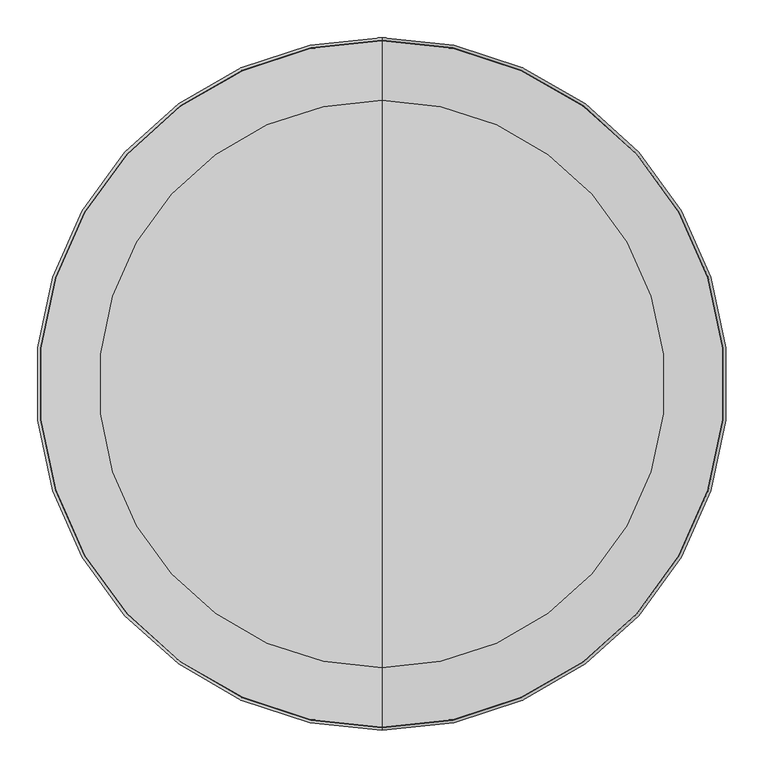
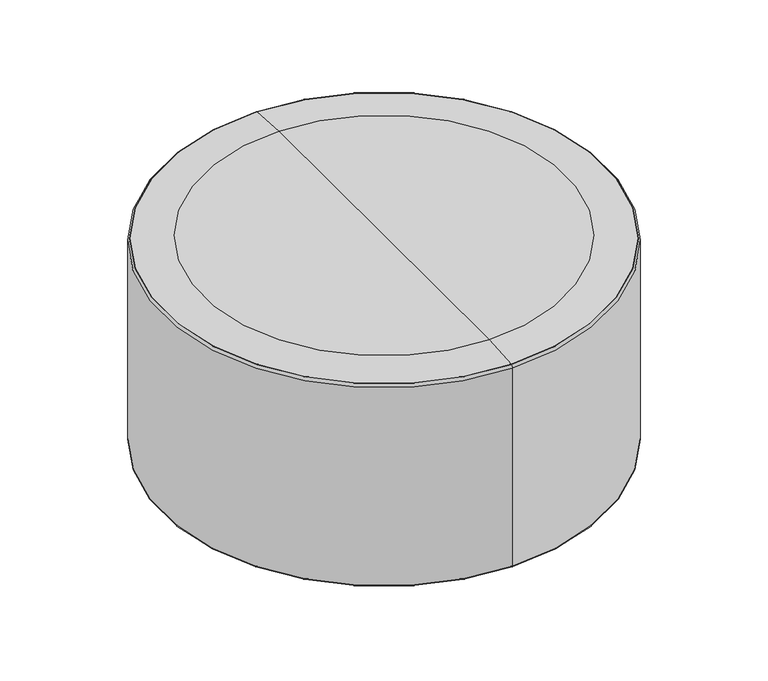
"""IFC4 building model written with IfcOpenShell, lengths in millimetres: furniture geometry, Indiana-Otty-Ottoman_Round : 840-3618RO."""

import ifcopenshell
import ifcopenshell.guid

model = None  # the IFC model being written
_history = None  # IfcOwnerHistory: only IFC2X3 demands one
_inside = {}  # id of a spatial element -> (the spatial element, [elements in it])
_under = {}  # id of a project, library or spatial element -> (it, [spatial elements below it])
_declared = {}  # id of a project -> (the project, [libraries it declares])
_typed = {}  # id of a type object -> (the type object, [elements of that type])
_made_of = {}  # id of a material, layer set ... -> (it, [elements and type objects made of it])


def new_model(schema):
    """Start an empty IFC model of exactly this schema.

    Asked for "IFC4X3", IfcOpenShell would pick the latest addendum, in which some entities
    have other attributes; the version numbers below select the first issue.
    IFC2X3 requires an IfcOwnerHistory on every rooted entity: one is made here for all.
    """
    global model, _history
    if schema == "IFC4X3":
        model = ifcopenshell.file(schema_version=(4, 3, 0, 0))
    else:
        model = ifcopenshell.file(schema=schema)
    _inside.clear()
    _under.clear()
    _declared.clear()
    _typed.clear()
    _made_of.clear()
    _history = None
    if model.schema == "IFC2X3":
        org = make("IfcOrganization", Name="unknown")
        user = make(
            "IfcPersonAndOrganization",
            ThePerson=make("IfcPerson", FamilyName="unknown"),
            TheOrganization=org,
        )
        app = make(
            "IfcApplication",
            ApplicationDeveloper=org,
            Version="unknown",
            ApplicationFullName="unknown",
            ApplicationIdentifier="unknown",
        )
        _history = make(
            "IfcOwnerHistory",
            OwningUser=user,
            OwningApplication=app,
            ChangeAction="ADDED",
            CreationDate=0,
        )
    return model


def make(cls, **values):
    """One entity of the class cls with the attributes given. An attribute that is None is left unset."""
    return model.create_entity(
        cls, **{name: value for name, value in values.items() if value is not None}
    )


def rooted(cls, **values):
    """An entity with a GlobalId (a new one), such as an element, a storey or a relation."""
    return make(cls, GlobalId=ifcopenshell.guid.new(), OwnerHistory=_history, **values)


def si_unit(unit_type, name, prefix=None):
    """IfcSIUnit, for example si_unit("LENGTHUNIT", "METRE", prefix="MILLI")."""
    return make("IfcSIUnit", UnitType=unit_type, Prefix=prefix, Name=name)


def assignment(units):
    """IfcUnitAssignment: the units of a project."""
    return None if units is None else make("IfcUnitAssignment", Units=units)


def point(xyz):
    """IfcCartesianPoint."""
    return None if xyz is None else make("IfcCartesianPoint", Coordinates=xyz)


def direction(xyz):
    """IfcDirection."""
    return None if xyz is None else make("IfcDirection", DirectionRatios=xyz)


def frame(location, z_axis=None, x_axis=None):
    """IfcAxis2Placement3D, a coordinate frame: its origin and axes. An axis left out is left unset."""
    return make(
        "IfcAxis2Placement3D",
        Location=point(location),
        Axis=direction(z_axis),
        RefDirection=direction(x_axis),
    )


def origin():
    """The frame at (0, 0, 0) with its axes left unset."""
    return frame((0.0, 0.0, 0.0))


def place(relative_to, where):
    """IfcLocalPlacement: puts the frame where relative to a parent placement (None: the world)."""
    return make(
        "IfcLocalPlacement", PlacementRelTo=relative_to, RelativePlacement=where
    )


def context(
    kind, dimensions, precision=None, world=None, true_north=None, identifier=None
):
    """IfcGeometricRepresentationContext, for example the 3D "Model" context."""
    return make(
        "IfcGeometricRepresentationContext",
        ContextIdentifier=identifier,
        ContextType=kind,
        CoordinateSpaceDimension=dimensions,
        Precision=precision,
        WorldCoordinateSystem=world,
        TrueNorth=true_north,
    )


def project(units=None, contexts=None):
    """IfcProject with its units and contexts."""
    return rooted(
        "IfcProject",
        Name="project",
        RepresentationContexts=contexts,
        UnitsInContext=assignment(units),
    )


def spatial(cls, under=None, at=None, **own):
    """A site, building, storey or space (cls), placed at a placement, below another one or the project."""
    s = rooted(cls, ObjectPlacement=at, **own)
    if under is not None:
        _under.setdefault(under.id(), (under, []))[1].append(s)
    return s


def polyline(points):
    """IfcPolyline through the points."""
    return make("IfcPolyline", Points=[point(p) for p in points])


def circle_curve(where, radius):
    """IfcCircle in the frame where."""
    return make("IfcCircle", Position=where, Radius=radius)


def ellipse_curve(where, semi_axis1, semi_axis2):
    """IfcEllipse in the frame where."""
    return make(
        "IfcEllipse", Position=where, SemiAxis1=semi_axis1, SemiAxis2=semi_axis2
    )


def trimmed(basis, trim1, trim2, sense, master):
    """IfcTrimmedCurve: the piece of a basis curve between two trims."""
    return make(
        "IfcTrimmedCurve",
        BasisCurve=basis,
        Trim1=trim1,
        Trim2=trim2,
        SenseAgreement=sense,
        MasterRepresentation=master,
    )


def shape(context_of_items, identifier, shape_type, items):
    """IfcShapeRepresentation: the items that make up one representation, for example the "Body"."""
    return make(
        "IfcShapeRepresentation",
        ContextOfItems=context_of_items,
        RepresentationIdentifier=identifier,
        RepresentationType=shape_type,
        Items=items,
    )


def source(mapping_origin, context_of_items, identifier, shape_type, items):
    """IfcRepresentationMap: a shape defined once, which mapped items show again and again."""
    return make(
        "IfcRepresentationMap",
        MappingOrigin=mapping_origin,
        MappedRepresentation=shape(context_of_items, identifier, shape_type, items),
    )


def transform(
    local_origin,
    x_axis=None,
    y_axis=None,
    z_axis=None,
    scale=None,
    scale2=None,
    scale3=None,
    uniform=True,
):
    """IfcCartesianTransformationOperator3D, or its non-uniform kind. x_axis, y_axis, z_axis: its Axis1, 2, 3."""
    if uniform:
        return make(
            "IfcCartesianTransformationOperator3D",
            Axis1=direction(x_axis),
            Axis2=direction(y_axis),
            LocalOrigin=point(local_origin),
            Scale=scale,
            Axis3=direction(z_axis),
        )
    return make(
        "IfcCartesianTransformationOperator3DnonUniform",
        Axis1=direction(x_axis),
        Axis2=direction(y_axis),
        LocalOrigin=point(local_origin),
        Scale=scale,
        Axis3=direction(z_axis),
        Scale2=scale2,
        Scale3=scale3,
    )


def mapped(mapping_source, mapping_target):
    """IfcMappedItem: shows the shape of a source again, moved by a transform."""
    return make(
        "IfcMappedItem", MappingSource=mapping_source, MappingTarget=mapping_target
    )


def made_of(thing, what):
    """Note that an element or type object is made of a material, layer set ...; save() writes the relation."""
    if what is not None:
        _made_of.setdefault(what.id(), (what, []))[1].append(thing)
    return thing


def element(
    cls,
    number,
    at=None,
    inside=None,
    cuts=None,
    type_object=None,
    material=None,
    context=None,
    identifier="Body",
    shape_type=None,
    held_by="IfcProductDefinitionShape",
    body=None,
    shapes=None,
    **own,
):
    """One element of the class cls, such as IfcWall. Its Tag is "e" and its number.

    at: its placement. inside: the storey or other place that contains it. cuts: it is an
    opening in that element (IfcRelVoidsElement). A single representation is given by context,
    identifier, shape_type and body (its items); several are given by shapes. held_by: the class
    of the entity that holds the representations. save() writes the other relations.
    """
    e = rooted(cls, Tag="e%d" % number, ObjectPlacement=at, **own)
    if body is not None:
        shapes = [shape(context, identifier, shape_type, body)]
    if shapes is not None:
        e.Representation = make(held_by, Representations=shapes)
    if inside is not None:
        _inside.setdefault(inside.id(), (inside, []))[1].append(e)
    if cuts is not None:
        rooted(
            "IfcRelVoidsElement", RelatingBuildingElement=cuts, RelatedOpeningElement=e
        )
    if type_object is not None:
        _typed.setdefault(type_object.id(), (type_object, []))[1].append(e)
    return made_of(e, material)


def aggregate(whole, parts):
    """IfcRelAggregates: a whole, such as a stair, and the parts it consists of."""
    return rooted("IfcRelAggregates", RelatingObject=whole, RelatedObjects=parts)


def save(model, path):
    """Write the relations noted so far, then the file.

    IfcRelAggregates (storeys below a building ...), IfcRelContainedInSpatialStructure (elements
    in a storey), IfcRelDefinesByType, IfcRelAssociatesMaterial and IfcRelDeclares: one each for
    every whole, place, type object, material and project.
    """
    for whole, parts in _under.values():
        aggregate(whole, parts)
    for where, things in _inside.values():
        rooted(
            "IfcRelContainedInSpatialStructure",
            RelatedElements=things,
            RelatingStructure=where,
        )
    for kind, things in _typed.values():
        rooted("IfcRelDefinesByType", RelatedObjects=things, RelatingType=kind)
    for what, things in _made_of.values():
        rooted("IfcRelAssociatesMaterial", RelatedObjects=things, RelatingMaterial=what)
    for by, libraries in _declared.values():
        rooted("IfcRelDeclares", RelatingContext=by, RelatedDefinitions=libraries)
    model.write(path)


def plane_surface(at):
    """IfcPlane: the flat surface through the origin of the frame at, square to its z axis."""
    return make("IfcPlane", Position=at)


def cylinder_surface(at, radius):
    """IfcCylindricalSurface: all points at the distance radius from the z axis of the frame at."""
    return make("IfcCylindricalSurface", Position=at, Radius=radius)


def revolved_surface(curve, axis_point, axis_direction):
    """IfcSurfaceOfRevolution: the curve turned about the line through axis_point along axis_direction."""
    return make(
        "IfcSurfaceOfRevolution",
        SweptCurve=make("IfcArbitraryOpenProfileDef", ProfileType="CURVE", Curve=curve),
        AxisPosition=make("IfcAxis1Placement", Location=point(axis_point), Axis=direction(axis_direction)),
    )


def advanced_brep(points, edges, surfaces, faces):
    """IfcAdvancedBrep: a solid bounded by faces that lie on surfaces and meet in shared edges.

    An edge is (start, end): straight between two places in points (the first is 0);
    or (start, end, curve); or (start, end, curve, False) where it runs against its curve.
    A face is (place in surfaces, loops), or (place, loops, False) where it looks against
    its surface's normal. A loop lists edges by number (the first is 1), with a minus sign
    where the edge is run from its end to its start. The first loop is the outer one.
    """
    corners = [point(p) for p in points]
    vertices = [make("IfcVertexPoint", VertexGeometry=c) for c in corners]
    made = []
    for start, end, *more in edges:
        made.append(
            make(
                "IfcEdgeCurve",
                EdgeStart=vertices[start],
                EdgeEnd=vertices[end],
                EdgeGeometry=more[0] if more else make("IfcPolyline", Points=[corners[start], corners[end]]),
                SameSense=more[1] if len(more) > 1 else True,
            )
        )
    hull = []
    for where, loops, *sense in faces:
        bounds = []
        for j, loop in enumerate(loops):
            ring = [make("IfcOrientedEdge", EdgeElement=made[abs(k) - 1], Orientation=k > 0) for k in loop]
            bounds.append(
                make(
                    "IfcFaceOuterBound" if j == 0 else "IfcFaceBound",
                    Bound=make("IfcEdgeLoop", EdgeList=ring),
                    Orientation=True,
                )
            )
        hull.append(make("IfcAdvancedFace", Bounds=bounds, FaceSurface=surfaces[where], SameSense=sense[0] if sense else True))
    return make("IfcAdvancedBrep", Outer=make("IfcClosedShell", CfsFaces=hull))


def furniture_21317942(model_context):
    return source(origin(), model_context, "Body", "AdvancedBrep", [
        advanced_brep(
        [(374.4189295, 85.5904719, 19.8875), (354.9333579, 96.8404719, 19.8875), (393.9045011, 74.3404719, 19.8875), (355.3217632, 96.616226, 4.2458827), (393.5160958, 74.5647178, 4.2458827), (359.2060099, 94.3736551, -0.1125), (389.6318491, 76.8072887, -0.1125), (365.5269116, 90.7242808, -0.1125), (383.3109474, 80.456663, -0.1125), (368.8996269, 88.7770427, 3.9179615), (379.9382321, 82.4039011, 3.9179615), (374.4189295, 85.5904719, 3.9179615)],
        [
            (0, 1),
            (1, 2, circle_curve(frame((374.4189295, 85.5904719, 19.8875), z_axis=(0.0, 0.0, 1.0), x_axis=(-0.8660254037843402, 0.5000000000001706, 0.0)), 22.5)),
            (2, 0),
            (2, 1, circle_curve(frame((374.4189295, 85.5904719, 19.8875), z_axis=(0.0, 0.0, 1.0), x_axis=(-0.8660254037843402, 0.5000000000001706, 0.0)), 22.5)),
            (1, 3),
            (3, 4, circle_curve(frame((374.4189295, 85.5904719, 4.2458827), z_axis=(0.0, 0.0, 1.0), x_axis=(-0.8660254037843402, 0.5000000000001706, 0.0)), 22.0515082)),
            (4, 2),
            (4, 3, circle_curve(frame((374.4189295, 85.5904719, 4.2458827), z_axis=(0.0, 0.0, 1.0), x_axis=(-0.8660254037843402, 0.5000000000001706, 0.0)), 22.0515082)),
            (3, 5, circle_curve(frame((359.2060099, 94.3736551, 4.3744851), z_axis=(-0.5000000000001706, -0.8660254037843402, 0.0), x_axis=(0.8660254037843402, -0.5000000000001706, 0.0)), 4.4869851)),
            (5, 6, circle_curve(frame((374.4189295, 85.5904719, -0.1125), z_axis=(0.0, 0.0, 1.0), x_axis=(-0.8660254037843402, 0.5000000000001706, 0.0)), 17.5663665)),
            (6, 4, circle_curve(frame((389.6318491, 76.8072887, 4.3744851), z_axis=(-0.5000000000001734, -0.8660254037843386, 0.0), x_axis=(-0.8660254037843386, 0.5000000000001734, 0.0)), 4.4869851)),
            (6, 5, circle_curve(frame((374.4189295, 85.5904719, -0.1125), z_axis=(0.0, 0.0, 1.0), x_axis=(-0.8660254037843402, 0.5000000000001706, 0.0)), 17.5663665)),
            (5, 7),
            (7, 8, circle_curve(frame((374.4189295, 85.5904719, -0.1125), z_axis=(0.0, 0.0, 1.0), x_axis=(-0.8660254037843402, 0.5000000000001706, 0.0)), 10.2676178)),
            (8, 6),
            (8, 7, circle_curve(frame((374.4189295, 85.5904719, -0.1125), z_axis=(0.0, 0.0, 1.0), x_axis=(-0.8660254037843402, 0.5000000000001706, 0.0)), 10.2676178)),
            (7, 9, circle_curve(frame((365.5269116, 90.7242808, 3.7842702), z_axis=(-0.5000000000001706, -0.8660254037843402, 0.0), x_axis=(0.8660254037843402, -0.5000000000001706, 0.0)), 3.8967702)),
            (9, 10, circle_curve(frame((374.4189295, 85.5904719, 3.9179615), z_axis=(0.0, 0.0, 1.0), x_axis=(-0.8660254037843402, 0.5000000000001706, 0.0)), 6.3731417)),
            (10, 8, circle_curve(frame((383.3109474, 80.456663, 3.7842702), z_axis=(-0.5000000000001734, -0.8660254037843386, 0.0), x_axis=(-0.8660254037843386, 0.5000000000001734, 0.0)), 3.8967702)),
            (10, 9, circle_curve(frame((374.4189295, 85.5904719, 3.9179615), z_axis=(0.0, 0.0, 1.0), x_axis=(-0.8660254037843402, 0.5000000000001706, 0.0)), 6.3731417)),
            (9, 11),
            (11, 10),
        ],
        [
            plane_surface(frame((374.4189295, 85.5904719, 19.8875), z_axis=(0.0, 0.0, 1.0000000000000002), x_axis=(-0.8660254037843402, 0.5000000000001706, 0.0))),
            revolved_surface(polyline([(355.3217632, 96.616226, 4.2458827), (354.9333579, 96.8404719, 19.8875)]), (374.4189295, 85.5904719, 31.0803862), (0.0, 0.0, 1.0)),
            revolved_surface(trimmed(ellipse_curve(frame((359.2060099, 94.3736551, 4.3744851), z_axis=(0.5000000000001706, 0.8660254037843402, 0.0), x_axis=(0.8660254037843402, -0.5000000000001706, 0.0)), 4.4869851, 4.4869851), [point((359.2060099, 94.3736551, -0.1125))], [point((355.3217632, 96.616226, 4.2458827))], True, "CARTESIAN"), (374.4189295, 85.5904719, 31.0803862), (0.0, 0.0, 1.0)),
            plane_surface(frame((374.4189295, 85.5904719, -0.1125), z_axis=(0.0, 0.0, -1.0000000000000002), x_axis=(-0.8660254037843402, 0.5000000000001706, 0.0))),
            revolved_surface(trimmed(ellipse_curve(frame((365.5269116, 90.7242808, 3.7842702), z_axis=(0.5000000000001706, 0.8660254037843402, 0.0), x_axis=(0.8660254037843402, -0.5000000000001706, 0.0)), 3.8967702, 3.8967702), [point((368.8996269, 88.7770427, 3.9179615))], [point((365.5269116, 90.7242808, -0.1125))], True, "CARTESIAN"), (374.4189295, 85.5904719, 31.0803862), (0.0, 0.0, 1.0)),
            plane_surface(frame((374.4189295, 85.5904719, 3.9179615), z_axis=(0.0, 0.0, -1.0000000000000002), x_axis=(-0.8660254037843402, 0.5000000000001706, 0.0))),
        ],
        [
            (0, [[1, 2, 3]]),
            (0, [[-3, 4, -1]]),
            (1, [[-2, 5, 6, 7]]),
            (1, [[-4, -7, 8, -5]]),
            (2, [[-6, 9, 10, 11]]),
            (2, [[-8, -11, 12, -9]]),
            (3, [[-10, 13, 14, 15]]),
            (3, [[-12, -15, 16, -13]]),
            (4, [[-14, 17, 18, 19]]),
            (4, [[-16, -19, 20, -17]]),
            (5, [[-18, 21, 22]]),
            (5, [[-20, -22, -21]]),
        ],
    ),
        advanced_brep(
        [(261.3329878, -281.4610687, 19.8875), (261.3329878, -258.9610687, 19.8875), (261.3329878, -303.9610687, 19.8875), (261.3329878, -259.4095604, 4.2458827), (261.3329878, -303.5125769, 4.2458827), (261.3329878, -263.8947022, -0.1125), (261.3329878, -299.0274351, -0.1125), (261.3329878, -271.1934508, -0.1125), (261.3329878, -291.7286865, -0.1125), (261.3329878, -275.087927, 3.9179615), (261.3329878, -287.8342103, 3.9179615), (261.3329878, -281.4610687, 3.9179615)],
        [
            (0, 1),
            (1, 2, circle_curve(frame((261.3329878, -281.4610687, 19.8875), z_axis=(0.0, 0.0, 1.0), x_axis=(0.0, 1.0, 0.0)), 22.5)),
            (2, 0),
            (2, 1, circle_curve(frame((261.3329878, -281.4610687, 19.8875), z_axis=(0.0, 0.0, 1.0), x_axis=(0.0, 1.0, 0.0)), 22.5)),
            (1, 3),
            (3, 4, circle_curve(frame((261.3329878, -281.4610687, 4.2458827), z_axis=(0.0, 0.0, 1.0), x_axis=(0.0, 1.0, 0.0)), 22.0515082)),
            (4, 2),
            (4, 3, circle_curve(frame((261.3329878, -281.4610687, 4.2458827), z_axis=(0.0, 0.0, 1.0), x_axis=(0.0, 1.0, 0.0)), 22.0515082)),
            (3, 5, circle_curve(frame((261.3329878, -263.8947022, 4.3744851), z_axis=(-1.0, 0.0, 0.0), x_axis=(0.0, -1.0, 0.0)), 4.4869851)),
            (5, 6, circle_curve(frame((261.3329878, -281.4610687, -0.1125), z_axis=(0.0, 0.0, 1.0), x_axis=(0.0, 1.0, 0.0)), 17.5663665)),
            (6, 4, circle_curve(frame((261.3329878, -299.0274351, 4.3744851), z_axis=(-1.0, 0.0, 0.0), x_axis=(0.0, 1.0, 0.0)), 4.4869851)),
            (6, 5, circle_curve(frame((261.3329878, -281.4610687, -0.1125), z_axis=(0.0, 0.0, 1.0), x_axis=(0.0, 1.0, 0.0)), 17.5663665)),
            (5, 7),
            (7, 8, circle_curve(frame((261.3329878, -281.4610687, -0.1125), z_axis=(0.0, 0.0, 1.0), x_axis=(0.0, 1.0, 0.0)), 10.2676178)),
            (8, 6),
            (8, 7, circle_curve(frame((261.3329878, -281.4610687, -0.1125), z_axis=(0.0, 0.0, 1.0), x_axis=(0.0, 1.0, 0.0)), 10.2676178)),
            (7, 9, circle_curve(frame((261.3329878, -271.1934508, 3.7842702), z_axis=(-1.0, 0.0, 0.0), x_axis=(0.0, -1.0, 0.0)), 3.8967702)),
            (9, 10, circle_curve(frame((261.3329878, -281.4610687, 3.9179615), z_axis=(0.0, 0.0, 1.0), x_axis=(0.0, 1.0, 0.0)), 6.3731417)),
            (10, 8, circle_curve(frame((261.3329878, -291.7286865, 3.7842702), z_axis=(-1.0, 0.0, 0.0), x_axis=(0.0, 1.0, 0.0)), 3.8967702)),
            (10, 9, circle_curve(frame((261.3329878, -281.4610687, 3.9179615), z_axis=(0.0, 0.0, 1.0), x_axis=(0.0, 1.0, 0.0)), 6.3731417)),
            (9, 11),
            (11, 10),
        ],
        [
            plane_surface(frame((261.3329878, -281.4610687, 19.8875), z_axis=(0.0, 0.0, 1.0), x_axis=(0.0, 1.0, 0.0))),
            revolved_surface(polyline([(261.3329878, -259.4095604, 4.2458827), (261.3329878, -258.9610687, 19.8875)]), (261.3329878, -281.4610687, 31.0803862), (0.0, 0.0, 1.0)),
            revolved_surface(trimmed(ellipse_curve(frame((261.3329878, -263.8947022, 4.3744851), z_axis=(1.0, 0.0, 0.0), x_axis=(0.0, -1.0, 0.0)), 4.4869851, 4.4869851), [point((261.3329878, -263.8947022, -0.1125))], [point((261.3329878, -259.4095604, 4.2458827))], True, "CARTESIAN"), (261.3329878, -281.4610687, 31.0803862), (0.0, 0.0, 1.0)),
            plane_surface(frame((261.3329878, -281.4610687, -0.1125), z_axis=(0.0, 0.0, -1.0), x_axis=(0.0, 1.0, 0.0))),
            revolved_surface(trimmed(ellipse_curve(frame((261.3329878, -271.1934508, 3.7842702), z_axis=(1.0, 0.0, 0.0), x_axis=(0.0, -1.0, 0.0)), 3.8967702, 3.8967702), [point((261.3329878, -275.087927, 3.9179615))], [point((261.3329878, -271.1934508, -0.1125))], True, "CARTESIAN"), (261.3329878, -281.4610687, 31.0803862), (0.0, 0.0, 1.0)),
            plane_surface(frame((261.3329878, -281.4610687, 3.9179615), z_axis=(0.0, 0.0, -1.0), x_axis=(0.0, 1.0, 0.0))),
        ],
        [
            (0, [[1, 2, 3]]),
            (0, [[-3, 4, -1]]),
            (1, [[-2, 5, 6, 7]]),
            (1, [[-4, -7, 8, -5]]),
            (2, [[-6, 9, 10, 11]]),
            (2, [[-8, -11, 12, -9]]),
            (3, [[-10, 13, 14, 15]]),
            (3, [[-12, -15, 16, -13]]),
            (4, [[-14, 17, 18, 19]]),
            (4, [[-16, -19, 20, -17]]),
            (5, [[-18, 21, 22]]),
            (5, [[-20, -22, -21]]),
        ],
    ),
        advanced_brep(
        [(-113.0859418, -367.0515406, 19.8875), (-93.6003702, -355.8015406, 19.8875), (-132.5715133, -378.3015406, 19.8875), (-93.9887754, -356.0257864, 4.2458827), (-132.1831081, -378.0772947, 4.2458827), (-97.8730221, -358.2683573, -0.1125), (-128.2988614, -375.8347238, -0.1125), (-104.1939239, -361.9177316, -0.1125), (-121.9779596, -372.1853495, -0.1125), (-107.5666392, -363.8649697, 3.9179615), (-118.6052443, -370.2381114, 3.9179615), (-113.0859418, -367.0515406, 3.9179615)],
        [
            (0, 1),
            (1, 2, circle_curve(frame((-113.0859418, -367.0515406, 19.8875), z_axis=(0.0, 0.0, 1.0), x_axis=(0.8660254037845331, 0.49999999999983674, 0.0)), 22.5)),
            (2, 0),
            (2, 1, circle_curve(frame((-113.0859418, -367.0515406, 19.8875), z_axis=(0.0, 0.0, 1.0), x_axis=(0.8660254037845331, 0.49999999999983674, 0.0)), 22.5)),
            (1, 3),
            (3, 4, circle_curve(frame((-113.0859418, -367.0515406, 4.2458827), z_axis=(0.0, 0.0, 1.0), x_axis=(0.8660254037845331, 0.49999999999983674, 0.0)), 22.0515082)),
            (4, 2),
            (4, 3, circle_curve(frame((-113.0859418, -367.0515406, 4.2458827), z_axis=(0.0, 0.0, 1.0), x_axis=(0.8660254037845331, 0.49999999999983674, 0.0)), 22.0515082)),
            (3, 5, circle_curve(frame((-97.8730221, -358.2683573, 4.3744851), z_axis=(-0.49999999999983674, 0.8660254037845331, 0.0), x_axis=(-0.8660254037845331, -0.49999999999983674, 0.0)), 4.4869851)),
            (5, 6, circle_curve(frame((-113.0859418, -367.0515406, -0.1125), z_axis=(0.0, 0.0, 1.0), x_axis=(0.8660254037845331, 0.49999999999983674, 0.0)), 17.5663665)),
            (6, 4, circle_curve(frame((-128.2988614, -375.8347238, 4.3744851), z_axis=(-0.49999999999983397, 0.8660254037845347, 0.0), x_axis=(0.8660254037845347, 0.49999999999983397, 0.0)), 4.4869851)),
            (6, 5, circle_curve(frame((-113.0859418, -367.0515406, -0.1125), z_axis=(0.0, 0.0, 1.0), x_axis=(0.8660254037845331, 0.49999999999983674, 0.0)), 17.5663665)),
            (5, 7),
            (7, 8, circle_curve(frame((-113.0859418, -367.0515406, -0.1125), z_axis=(0.0, 0.0, 1.0), x_axis=(0.8660254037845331, 0.49999999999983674, 0.0)), 10.2676178)),
            (8, 6),
            (8, 7, circle_curve(frame((-113.0859418, -367.0515406, -0.1125), z_axis=(0.0, 0.0, 1.0), x_axis=(0.8660254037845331, 0.49999999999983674, 0.0)), 10.2676178)),
            (7, 9, circle_curve(frame((-104.1939239, -361.9177316, 3.7842702), z_axis=(-0.49999999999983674, 0.8660254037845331, 0.0), x_axis=(-0.8660254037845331, -0.49999999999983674, 0.0)), 3.8967702)),
            (9, 10, circle_curve(frame((-113.0859418, -367.0515406, 3.9179615), z_axis=(0.0, 0.0, 1.0), x_axis=(0.8660254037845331, 0.49999999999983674, 0.0)), 6.3731417)),
            (10, 8, circle_curve(frame((-121.9779596, -372.1853495, 3.7842702), z_axis=(-0.49999999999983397, 0.8660254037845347, 0.0), x_axis=(0.8660254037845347, 0.49999999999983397, 0.0)), 3.8967702)),
            (10, 9, circle_curve(frame((-113.0859418, -367.0515406, 3.9179615), z_axis=(0.0, 0.0, 1.0), x_axis=(0.8660254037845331, 0.49999999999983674, 0.0)), 6.3731417)),
            (9, 11),
            (11, 10),
        ],
        [
            plane_surface(frame((-113.0859418, -367.0515406, 19.8875), z_axis=(0.0, 0.0, 1.0000000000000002), x_axis=(0.8660254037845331, 0.49999999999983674, 0.0))),
            revolved_surface(polyline([(-93.9887754, -356.0257864, 4.2458827), (-93.6003702, -355.8015406, 19.8875)]), (-113.0859418, -367.0515406, 31.0803862), (0.0, 0.0, 1.0)),
            revolved_surface(trimmed(ellipse_curve(frame((-97.8730221, -358.2683573, 4.3744851), z_axis=(0.49999999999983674, -0.8660254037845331, 0.0), x_axis=(-0.8660254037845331, -0.49999999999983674, 0.0)), 4.4869851, 4.4869851), [point((-97.8730221, -358.2683573, -0.1125))], [point((-93.9887754, -356.0257864, 4.2458827))], True, "CARTESIAN"), (-113.0859418, -367.0515406, 31.0803862), (0.0, 0.0, 1.0)),
            plane_surface(frame((-113.0859418, -367.0515406, -0.1125), z_axis=(0.0, 0.0, -1.0000000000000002), x_axis=(0.8660254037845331, 0.49999999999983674, 0.0))),
            revolved_surface(trimmed(ellipse_curve(frame((-104.1939239, -361.9177316, 3.7842702), z_axis=(0.49999999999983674, -0.8660254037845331, 0.0), x_axis=(-0.8660254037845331, -0.49999999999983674, 0.0)), 3.8967702, 3.8967702), [point((-107.5666392, -363.8649697, 3.9179615))], [point((-104.1939239, -361.9177316, -0.1125))], True, "CARTESIAN"), (-113.0859418, -367.0515406, 31.0803862), (0.0, 0.0, 1.0)),
            plane_surface(frame((-113.0859418, -367.0515406, 3.9179615), z_axis=(0.0, 0.0, -1.0000000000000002), x_axis=(0.8660254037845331, 0.49999999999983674, 0.0))),
        ],
        [
            (0, [[1, 2, 3]]),
            (0, [[-3, 4, -1]]),
            (1, [[-2, 5, 6, 7]]),
            (1, [[-4, -7, 8, -5]]),
            (2, [[-6, 9, 10, 11]]),
            (2, [[-8, -11, 12, -9]]),
            (3, [[-10, 13, 14, 15]]),
            (3, [[-12, -15, 16, -13]]),
            (4, [[-14, 17, 18, 19]]),
            (4, [[-16, -19, 20, -17]]),
            (5, [[-18, 21, 22]]),
            (5, [[-20, -22, -21]]),
        ],
    ),
        advanced_brep(
        [(-374.4189295, -85.5904719, 19.8875), (-354.9333579, -96.8404719, 19.8875), (-393.9045011, -74.3404719, 19.8875), (-355.3217632, -96.616226, 4.2458827), (-393.5160958, -74.5647178, 4.2458827), (-359.2060099, -94.3736551, -0.1125), (-389.6318491, -76.8072887, -0.1125), (-365.5269116, -90.7242808, -0.1125), (-383.3109474, -80.456663, -0.1125), (-368.8996269, -88.7770427, 3.9179615), (-379.9382321, -82.4039011, 3.9179615), (-374.4189295, -85.5904719, 3.9179615)],
        [
            (0, 1),
            (1, 2, circle_curve(frame((-374.4189295, -85.5904719, 19.8875), z_axis=(0.0, 0.0, 1.0), x_axis=(0.8660254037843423, -0.500000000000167, 0.0)), 22.5)),
            (2, 0),
            (2, 1, circle_curve(frame((-374.4189295, -85.5904719, 19.8875), z_axis=(0.0, 0.0, 1.0), x_axis=(0.8660254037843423, -0.500000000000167, 0.0)), 22.5)),
            (1, 3),
            (3, 4, circle_curve(frame((-374.4189295, -85.5904719, 4.2458827), z_axis=(0.0, 0.0, 1.0), x_axis=(0.8660254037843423, -0.500000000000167, 0.0)), 22.0515082)),
            (4, 2),
            (4, 3, circle_curve(frame((-374.4189295, -85.5904719, 4.2458827), z_axis=(0.0, 0.0, 1.0), x_axis=(0.8660254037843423, -0.500000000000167, 0.0)), 22.0515082)),
            (3, 5, circle_curve(frame((-359.2060099, -94.3736551, 4.3744851), z_axis=(0.500000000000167, 0.8660254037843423, 0.0), x_axis=(-0.8660254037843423, 0.500000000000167, 0.0)), 4.4869851)),
            (5, 6, circle_curve(frame((-374.4189295, -85.5904719, -0.1125), z_axis=(0.0, 0.0, 1.0), x_axis=(0.8660254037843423, -0.500000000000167, 0.0)), 17.5663665)),
            (6, 4, circle_curve(frame((-389.6318491, -76.8072887, 4.3744851), z_axis=(0.5000000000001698, 0.8660254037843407, 0.0), x_axis=(0.8660254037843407, -0.5000000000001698, 0.0)), 4.4869851)),
            (6, 5, circle_curve(frame((-374.4189295, -85.5904719, -0.1125), z_axis=(0.0, 0.0, 1.0), x_axis=(0.8660254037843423, -0.500000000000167, 0.0)), 17.5663665)),
            (5, 7),
            (7, 8, circle_curve(frame((-374.4189295, -85.5904719, -0.1125), z_axis=(0.0, 0.0, 1.0), x_axis=(0.8660254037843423, -0.500000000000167, 0.0)), 10.2676178)),
            (8, 6),
            (8, 7, circle_curve(frame((-374.4189295, -85.5904719, -0.1125), z_axis=(0.0, 0.0, 1.0), x_axis=(0.8660254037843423, -0.500000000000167, 0.0)), 10.2676178)),
            (7, 9, circle_curve(frame((-365.5269116, -90.7242808, 3.7842702), z_axis=(0.500000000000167, 0.8660254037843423, 0.0), x_axis=(-0.8660254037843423, 0.500000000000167, 0.0)), 3.8967702)),
            (9, 10, circle_curve(frame((-374.4189295, -85.5904719, 3.9179615), z_axis=(0.0, 0.0, 1.0), x_axis=(0.8660254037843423, -0.500000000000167, 0.0)), 6.3731417)),
            (10, 8, circle_curve(frame((-383.3109474, -80.456663, 3.7842702), z_axis=(0.5000000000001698, 0.8660254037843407, 0.0), x_axis=(0.8660254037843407, -0.5000000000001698, 0.0)), 3.8967702)),
            (10, 9, circle_curve(frame((-374.4189295, -85.5904719, 3.9179615), z_axis=(0.0, 0.0, 1.0), x_axis=(0.8660254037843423, -0.500000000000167, 0.0)), 6.3731417)),
            (9, 11),
            (11, 10),
        ],
        [
            plane_surface(frame((-374.4189295, -85.5904719, 19.8875), z_axis=(0.0, 0.0, 1.0000000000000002), x_axis=(0.8660254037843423, -0.500000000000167, 0.0))),
            revolved_surface(polyline([(-355.3217632, -96.616226, 4.2458827), (-354.9333579, -96.8404719, 19.8875)]), (-374.4189295, -85.5904719, 31.0803862), (0.0, 0.0, 1.0)),
            revolved_surface(trimmed(ellipse_curve(frame((-359.2060099, -94.3736551, 4.3744851), z_axis=(-0.500000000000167, -0.8660254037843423, 0.0), x_axis=(-0.8660254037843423, 0.500000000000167, 0.0)), 4.4869851, 4.4869851), [point((-359.2060099, -94.3736551, -0.1125))], [point((-355.3217632, -96.616226, 4.2458827))], True, "CARTESIAN"), (-374.4189295, -85.5904719, 31.0803862), (0.0, 0.0, 1.0)),
            plane_surface(frame((-374.4189295, -85.5904719, -0.1125), z_axis=(0.0, 0.0, -1.0000000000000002), x_axis=(0.8660254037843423, -0.500000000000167, 0.0))),
            revolved_surface(trimmed(ellipse_curve(frame((-365.5269116, -90.7242808, 3.7842702), z_axis=(-0.500000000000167, -0.8660254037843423, 0.0), x_axis=(-0.8660254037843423, 0.500000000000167, 0.0)), 3.8967702, 3.8967702), [point((-368.8996269, -88.7770427, 3.9179615))], [point((-365.5269116, -90.7242808, -0.1125))], True, "CARTESIAN"), (-374.4189295, -85.5904719, 31.0803862), (0.0, 0.0, 1.0)),
            plane_surface(frame((-374.4189295, -85.5904719, 3.9179615), z_axis=(0.0, 0.0, -1.0000000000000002), x_axis=(0.8660254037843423, -0.500000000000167, 0.0))),
        ],
        [
            (0, [[1, 2, 3]]),
            (0, [[-3, 4, -1]]),
            (1, [[-2, 5, 6, 7]]),
            (1, [[-4, -7, 8, -5]]),
            (2, [[-6, 9, 10, 11]]),
            (2, [[-8, -11, 12, -9]]),
            (3, [[-10, 13, 14, 15]]),
            (3, [[-12, -15, 16, -13]]),
            (4, [[-14, 17, 18, 19]]),
            (4, [[-16, -19, 20, -17]]),
            (5, [[-18, 21, 22]]),
            (5, [[-20, -22, -21]]),
        ],
    ),
        advanced_brep(
        [(113.0859418, 367.0515406, 19.8875), (93.6003702, 355.8015406, 19.8875), (132.5715133, 378.3015406, 19.8875), (93.9887754, 356.0257864, 4.2458827), (132.1831081, 378.0772947, 4.2458827), (97.8730221, 358.2683573, -0.1125), (128.2988614, 375.8347238, -0.1125), (104.1939239, 361.9177316, -0.1125), (121.9779596, 372.1853495, -0.1125), (107.5666392, 363.8649697, 3.9179615), (118.6052443, 370.2381114, 3.9179615), (113.0859418, 367.0515406, 3.9179615)],
        [
            (0, 1),
            (1, 2, circle_curve(frame((113.0859418, 367.0515406, 19.8875), z_axis=(0.0, 0.0, 1.0), x_axis=(-0.8660254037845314, -0.49999999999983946, 0.0)), 22.5)),
            (2, 0),
            (2, 1, circle_curve(frame((113.0859418, 367.0515406, 19.8875), z_axis=(0.0, 0.0, 1.0), x_axis=(-0.8660254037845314, -0.49999999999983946, 0.0)), 22.5)),
            (1, 3),
            (3, 4, circle_curve(frame((113.0859418, 367.0515406, 4.2458827), z_axis=(0.0, 0.0, 1.0), x_axis=(-0.8660254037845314, -0.49999999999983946, 0.0)), 22.0515082)),
            (4, 2),
            (4, 3, circle_curve(frame((113.0859418, 367.0515406, 4.2458827), z_axis=(0.0, 0.0, 1.0), x_axis=(-0.8660254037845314, -0.49999999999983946, 0.0)), 22.0515082)),
            (3, 5, circle_curve(frame((97.8730221, 358.2683573, 4.3744851), z_axis=(0.49999999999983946, -0.8660254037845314, 0.0), x_axis=(0.8660254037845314, 0.49999999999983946, 0.0)), 4.4869851)),
            (5, 6, circle_curve(frame((113.0859418, 367.0515406, -0.1125), z_axis=(0.0, 0.0, 1.0), x_axis=(-0.8660254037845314, -0.49999999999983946, 0.0)), 17.5663665)),
            (6, 4, circle_curve(frame((128.2988614, 375.8347238, 4.3744851), z_axis=(0.4999999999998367, -0.8660254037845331, 0.0), x_axis=(-0.8660254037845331, -0.4999999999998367, 0.0)), 4.4869851)),
            (6, 5, circle_curve(frame((113.0859418, 367.0515406, -0.1125), z_axis=(0.0, 0.0, 1.0), x_axis=(-0.8660254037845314, -0.49999999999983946, 0.0)), 17.5663665)),
            (5, 7),
            (7, 8, circle_curve(frame((113.0859418, 367.0515406, -0.1125), z_axis=(0.0, 0.0, 1.0), x_axis=(-0.8660254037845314, -0.49999999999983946, 0.0)), 10.2676178)),
            (8, 6),
            (8, 7, circle_curve(frame((113.0859418, 367.0515406, -0.1125), z_axis=(0.0, 0.0, 1.0), x_axis=(-0.8660254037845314, -0.49999999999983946, 0.0)), 10.2676178)),
            (7, 9, circle_curve(frame((104.1939239, 361.9177316, 3.7842702), z_axis=(0.49999999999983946, -0.8660254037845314, 0.0), x_axis=(0.8660254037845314, 0.49999999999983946, 0.0)), 3.8967702)),
            (9, 10, circle_curve(frame((113.0859418, 367.0515406, 3.9179615), z_axis=(0.0, 0.0, 1.0), x_axis=(-0.8660254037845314, -0.49999999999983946, 0.0)), 6.3731417)),
            (10, 8, circle_curve(frame((121.9779596, 372.1853495, 3.7842702), z_axis=(0.4999999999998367, -0.8660254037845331, 0.0), x_axis=(-0.8660254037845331, -0.4999999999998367, 0.0)), 3.8967702)),
            (10, 9, circle_curve(frame((113.0859418, 367.0515406, 3.9179615), z_axis=(0.0, 0.0, 1.0), x_axis=(-0.8660254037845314, -0.49999999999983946, 0.0)), 6.3731417)),
            (9, 11),
            (11, 10),
        ],
        [
            plane_surface(frame((113.0859418, 367.0515406, 19.8875), z_axis=(0.0, 0.0, 1.0), x_axis=(-0.8660254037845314, -0.49999999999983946, 0.0))),
            revolved_surface(polyline([(93.9887754, 356.0257864, 4.2458827), (93.6003702, 355.8015406, 19.8875)]), (113.0859418, 367.0515406, 31.0803862), (0.0, 0.0, 1.0)),
            revolved_surface(trimmed(ellipse_curve(frame((97.8730221, 358.2683573, 4.3744851), z_axis=(-0.49999999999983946, 0.8660254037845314, 0.0), x_axis=(0.8660254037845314, 0.49999999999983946, 0.0)), 4.4869851, 4.4869851), [point((97.8730221, 358.2683573, -0.1125))], [point((93.9887754, 356.0257864, 4.2458827))], True, "CARTESIAN"), (113.0859418, 367.0515406, 31.0803862), (0.0, 0.0, 1.0)),
            plane_surface(frame((113.0859418, 367.0515406, -0.1125), z_axis=(0.0, 0.0, -1.0), x_axis=(-0.8660254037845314, -0.49999999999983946, 0.0))),
            revolved_surface(trimmed(ellipse_curve(frame((104.1939239, 361.9177316, 3.7842702), z_axis=(-0.49999999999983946, 0.8660254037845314, 0.0), x_axis=(0.8660254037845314, 0.49999999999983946, 0.0)), 3.8967702, 3.8967702), [point((107.5666392, 363.8649697, 3.9179615))], [point((104.1939239, 361.9177316, -0.1125))], True, "CARTESIAN"), (113.0859418, 367.0515406, 31.0803862), (0.0, 0.0, 1.0)),
            plane_surface(frame((113.0859418, 367.0515406, 3.9179615), z_axis=(0.0, 0.0, -1.0), x_axis=(-0.8660254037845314, -0.49999999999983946, 0.0))),
        ],
        [
            (0, [[1, 2, 3]]),
            (0, [[-3, 4, -1]]),
            (1, [[-2, 5, 6, 7]]),
            (1, [[-4, -7, 8, -5]]),
            (2, [[-6, 9, 10, 11]]),
            (2, [[-8, -11, 12, -9]]),
            (3, [[-10, 13, 14, 15]]),
            (3, [[-12, -15, 16, -13]]),
            (4, [[-14, 17, 18, 19]]),
            (4, [[-16, -19, 20, -17]]),
            (5, [[-18, 21, 22]]),
            (5, [[-20, -22, -21]]),
        ],
    ),
        advanced_brep(
        [(-261.3329878, 281.4610687, 19.8875), (-261.3329878, 258.9610687, 19.8875), (-261.3329878, 303.9610687, 19.8875), (-261.3329878, 259.4095604, 4.2458827), (-261.3329878, 303.5125769, 4.2458827), (-261.3329878, 263.8947022, -0.1125), (-261.3329878, 299.0274351, -0.1125), (-261.3329878, 271.1934508, -0.1125), (-261.3329878, 291.7286865, -0.1125), (-261.3329878, 275.087927, 3.9179615), (-261.3329878, 287.8342103, 3.9179615), (-261.3329878, 281.4610687, 3.9179615)],
        [
            (0, 1),
            (1, 2, circle_curve(frame((-261.3329878, 281.4610687, 19.8875), z_axis=(0.0, 0.0, 1.0), x_axis=(0.0, -1.0, 0.0)), 22.5)),
            (2, 0),
            (2, 1, circle_curve(frame((-261.3329878, 281.4610687, 19.8875), z_axis=(0.0, 0.0, 1.0), x_axis=(0.0, -1.0, 0.0)), 22.5)),
            (1, 3),
            (3, 4, circle_curve(frame((-261.3329878, 281.4610687, 4.2458827), z_axis=(0.0, 0.0, 1.0), x_axis=(0.0, -1.0, 0.0)), 22.0515082)),
            (4, 2),
            (4, 3, circle_curve(frame((-261.3329878, 281.4610687, 4.2458827), z_axis=(0.0, 0.0, 1.0), x_axis=(0.0, -1.0, 0.0)), 22.0515082)),
            (3, 5, circle_curve(frame((-261.3329878, 263.8947022, 4.3744851), z_axis=(1.0, 0.0, 0.0), x_axis=(0.0, 1.0, 0.0)), 4.4869851)),
            (5, 6, circle_curve(frame((-261.3329878, 281.4610687, -0.1125), z_axis=(0.0, 0.0, 1.0), x_axis=(0.0, -1.0, 0.0)), 17.5663665)),
            (6, 4, circle_curve(frame((-261.3329878, 299.0274351, 4.3744851), z_axis=(1.0, 0.0, 0.0), x_axis=(0.0, -1.0, 0.0)), 4.4869851)),
            (6, 5, circle_curve(frame((-261.3329878, 281.4610687, -0.1125), z_axis=(0.0, 0.0, 1.0), x_axis=(0.0, -1.0, 0.0)), 17.5663665)),
            (5, 7),
            (7, 8, circle_curve(frame((-261.3329878, 281.4610687, -0.1125), z_axis=(0.0, 0.0, 1.0), x_axis=(0.0, -1.0, 0.0)), 10.2676178)),
            (8, 6),
            (8, 7, circle_curve(frame((-261.3329878, 281.4610687, -0.1125), z_axis=(0.0, 0.0, 1.0), x_axis=(0.0, -1.0, 0.0)), 10.2676178)),
            (7, 9, circle_curve(frame((-261.3329878, 271.1934508, 3.7842702), z_axis=(1.0, 0.0, 0.0), x_axis=(0.0, 1.0, 0.0)), 3.8967702)),
            (9, 10, circle_curve(frame((-261.3329878, 281.4610687, 3.9179615), z_axis=(0.0, 0.0, 1.0), x_axis=(0.0, -1.0, 0.0)), 6.3731417)),
            (10, 8, circle_curve(frame((-261.3329878, 291.7286865, 3.7842702), z_axis=(1.0, 0.0, 0.0), x_axis=(0.0, -1.0, 0.0)), 3.8967702)),
            (10, 9, circle_curve(frame((-261.3329878, 281.4610687, 3.9179615), z_axis=(0.0, 0.0, 1.0), x_axis=(0.0, -1.0, 0.0)), 6.3731417)),
            (9, 11),
            (11, 10),
        ],
        [
            plane_surface(frame((-261.3329878, 281.4610687, 19.8875), z_axis=(0.0, 0.0, 1.0), x_axis=(0.0, -1.0, 0.0))),
            revolved_surface(polyline([(-261.3329878, 259.4095604, 4.2458827), (-261.3329878, 258.9610687, 19.8875)]), (-261.3329878, 281.4610687, 31.0803862), (0.0, 0.0, 1.0)),
            revolved_surface(trimmed(ellipse_curve(frame((-261.3329878, 263.8947022, 4.3744851), z_axis=(-1.0, 0.0, 0.0), x_axis=(0.0, 1.0, 0.0)), 4.4869851, 4.4869851), [point((-261.3329878, 263.8947022, -0.1125))], [point((-261.3329878, 259.4095604, 4.2458827))], True, "CARTESIAN"), (-261.3329878, 281.4610687, 31.0803862), (0.0, 0.0, 1.0)),
            plane_surface(frame((-261.3329878, 281.4610687, -0.1125), z_axis=(0.0, 0.0, -1.0), x_axis=(0.0, -1.0, 0.0))),
            revolved_surface(trimmed(ellipse_curve(frame((-261.3329878, 271.1934508, 3.7842702), z_axis=(-1.0, 0.0, 0.0), x_axis=(0.0, 1.0, 0.0)), 3.8967702, 3.8967702), [point((-261.3329878, 275.087927, 3.9179615))], [point((-261.3329878, 271.1934508, -0.1125))], True, "CARTESIAN"), (-261.3329878, 281.4610687, 31.0803862), (0.0, 0.0, 1.0)),
            plane_surface(frame((-261.3329878, 281.4610687, 3.9179615), z_axis=(0.0, 0.0, -1.0), x_axis=(0.0, -1.0, 0.0))),
        ],
        [
            (0, [[1, 2, 3]]),
            (0, [[-3, 4, -1]]),
            (1, [[-2, 5, 6, 7]]),
            (1, [[-4, -7, 8, -5]]),
            (2, [[-6, 9, 10, 11]]),
            (2, [[-8, -11, 12, -9]]),
            (3, [[-10, 13, 14, 15]]),
            (3, [[-12, -15, 16, -13]]),
            (4, [[-14, 17, 18, 19]]),
            (4, [[-16, -19, 20, -17]]),
            (5, [[-18, 21, 22]]),
            (5, [[-20, -22, -21]]),
        ],
    ),
        advanced_brep(
        [(0.0, 457.2, 14.675), (0.0, 454.025, 11.5), (0.0, -454.025, 11.5), (0.0, -457.2, 14.675), (0.0, 457.2, 445.2), (0.0, -457.2, 445.2), (0.0, 453.9317905, 451.4073863), (0.0, -453.9317905, 451.4073863), (0.0, 453.2, 451.1999966), (0.0, -453.2, 451.1999966), (0.0, 374.65, 457.2), (0.0, -374.65, 457.2), (0.0, 0.0, 457.2), (0.0, 0.0, 11.5), (-385.9283045, -105.5252942, 11.5), (-362.9095545, -65.6556496, 11.5), (-101.5765668, -386.9863628, 11.5), (-124.5953168, -347.1167183, 11.5), (-284.3517378, 281.4610687, 11.5), (-238.3142378, 281.4610687, 11.5), (101.5765668, 386.9863628, 11.5), (124.5953168, 347.1167183, 11.5), (284.3517378, -281.4610687, 11.5), (238.3142378, -281.4610687, 11.5), (385.9283045, 105.5252942, 11.5), (362.9095545, 65.6556496, 11.5), (-362.9095545, -65.6556496, 19.834375), (-385.9283045, -105.5252942, 19.834375), (-124.5953168, -347.1167183, 19.834375), (-101.5765668, -386.9863628, 19.834375), (124.5953168, 347.1167183, 19.834375), (101.5765668, 386.9863628, 19.834375), (-238.3142378, 281.4610687, 19.834375), (-284.3517378, 281.4610687, 19.834375), (238.3142378, -281.4610687, 19.834375), (284.3517378, -281.4610687, 19.834375), (362.9095545, 65.6556496, 19.834375), (385.9283045, 105.5252942, 19.834375)],
        [
            (0, 1, circle_curve(frame((0.0, 454.025, 14.675), z_axis=(-1.0, 0.0, 0.0), x_axis=(0.0, 1.0, 0.0)), 3.175)),
            (1, 2, circle_curve(frame((0.0, 0.0, 11.5), z_axis=(0.0, 0.0, 1.0), x_axis=(0.0, 1.0, 0.0)), 454.025)),
            (2, 3, circle_curve(frame((0.0, -454.025, 14.675), z_axis=(-1.0, 0.0, 0.0), x_axis=(0.0, -1.0, 0.0)), 3.175)),
            (3, 0, circle_curve(frame((0.0, 0.0, 14.675), z_axis=(0.0, 0.0, -1.0), x_axis=(0.0, 1.0, 0.0)), 457.2)),
            (0, 3, circle_curve(frame((0.0, 0.0, 14.675), z_axis=(0.0, 0.0, -1.0), x_axis=(0.0, 1.0, 0.0)), 457.2)),
            (2, 1, circle_curve(frame((0.0, 0.0, 11.5), z_axis=(0.0, 0.0, 1.0), x_axis=(0.0, 1.0, 0.0)), 454.025)),
            (4, 0),
            (3, 5),
            (5, 4, circle_curve(frame((0.0, 0.0, 445.2), z_axis=(0.0, 0.0, -1.0), x_axis=(0.0, 1.0, 0.0)), 457.2)),
            (4, 5, circle_curve(frame((0.0, 0.0, 445.2), z_axis=(0.0, 0.0, -1.0), x_axis=(0.0, 1.0, 0.0)), 457.2)),
            (6, 4, circle_curve(frame((0.0, 449.6709786, 445.2), z_axis=(-1.0, 0.0, 0.0), x_axis=(0.0, 1.0, 0.0)), 7.5290214)),
            (5, 7, circle_curve(frame((0.0, -449.6709786, 445.2), z_axis=(-1.0, 0.0, 0.0), x_axis=(0.0, -1.0, 0.0)), 7.5290214)),
            (7, 6, circle_curve(frame((0.0, 0.0, 451.4073863), z_axis=(0.0, 0.0, -1.0), x_axis=(0.0, 1.0, 0.0)), 453.9317905)),
            (6, 7, circle_curve(frame((0.0, 0.0, 451.4073863), z_axis=(0.0, 0.0, -1.0), x_axis=(0.0, 1.0, 0.0)), 453.9317905)),
            (8, 6, circle_curve(frame((0.0, 453.6520185, 450.999799), z_axis=(-1.0, 0.0, 0.0), x_axis=(0.0, 1.0, 0.0)), 0.4943681)),
            (7, 9, circle_curve(frame((0.0, -453.6520185, 450.999799), z_axis=(-1.0, 0.0, 0.0), x_axis=(0.0, -1.0, 0.0)), 0.4943681)),
            (9, 8, circle_curve(frame((0.0, 0.0, 451.1999966), z_axis=(0.0, 0.0, -1.0), x_axis=(0.0, 1.0, 0.0)), 453.2)),
            (8, 9, circle_curve(frame((0.0, 0.0, 451.1999966), z_axis=(0.0, 0.0, -1.0), x_axis=(0.0, 1.0, 0.0)), 453.2)),
            (10, 8, circle_curve(frame((0.0, 374.65, -59.9749222), z_axis=(-1.0, 0.0, 0.0), x_axis=(0.0, 1.0, 0.0)), 517.1749222)),
            (9, 11, circle_curve(frame((0.0, -374.65, -59.9749222), z_axis=(-1.0, 0.0, 0.0), x_axis=(0.0, -1.0, 0.0)), 517.1749222)),
            (11, 10, circle_curve(frame((0.0, 0.0, 457.2), z_axis=(0.0, 0.0, -1.0), x_axis=(0.0, 1.0, 0.0)), 374.65)),
            (10, 11, circle_curve(frame((0.0, 0.0, 457.2), z_axis=(0.0, 0.0, -1.0), x_axis=(0.0, 1.0, 0.0)), 374.65)),
            (12, 10),
            (11, 12),
            (1, 13),
            (13, 2),
            (14, 15, circle_curve(frame((-374.4189295, -85.5904719, 11.5), z_axis=(0.0, 0.0, 1.0), x_axis=(-0.500000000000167, -0.8660254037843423, 0.0)), 23.01875)),
            (15, 14, circle_curve(frame((-374.4189295, -85.5904719, 11.5), z_axis=(0.0, 0.0, 1.0), x_axis=(-0.500000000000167, -0.8660254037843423, 0.0)), 23.01875)),
            (16, 17, circle_curve(frame((-113.0859418, -367.0515406, 11.5), z_axis=(0.0, 0.0, 1.0), x_axis=(0.49999999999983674, -0.8660254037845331, 0.0)), 23.01875)),
            (17, 16, circle_curve(frame((-113.0859418, -367.0515406, 11.5), z_axis=(0.0, 0.0, 1.0), x_axis=(0.49999999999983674, -0.8660254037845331, 0.0)), 23.01875)),
            (18, 19, circle_curve(frame((-261.3329878, 281.4610687, 11.5), z_axis=(0.0, 0.0, 1.0), x_axis=(-1.0, 0.0, 0.0)), 23.01875)),
            (19, 18, circle_curve(frame((-261.3329878, 281.4610687, 11.5), z_axis=(0.0, 0.0, 1.0), x_axis=(-1.0, 0.0, 0.0)), 23.01875)),
            (20, 21, circle_curve(frame((113.0859418, 367.0515406, 11.5), z_axis=(0.0, 0.0, 1.0), x_axis=(-0.49999999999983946, 0.8660254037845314, 0.0)), 23.01875)),
            (21, 20, circle_curve(frame((113.0859418, 367.0515406, 11.5), z_axis=(0.0, 0.0, 1.0), x_axis=(-0.49999999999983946, 0.8660254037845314, 0.0)), 23.01875)),
            (22, 23, circle_curve(frame((261.3329878, -281.4610687, 11.5), z_axis=(0.0, 0.0, 1.0), x_axis=(1.0, 0.0, 0.0)), 23.01875)),
            (23, 22, circle_curve(frame((261.3329878, -281.4610687, 11.5), z_axis=(0.0, 0.0, 1.0), x_axis=(1.0, 0.0, 0.0)), 23.01875)),
            (24, 25, circle_curve(frame((374.4189295, 85.5904719, 11.5), z_axis=(0.0, 0.0, 1.0), x_axis=(0.5000000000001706, 0.8660254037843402, 0.0)), 23.01875)),
            (25, 24, circle_curve(frame((374.4189295, 85.5904719, 11.5), z_axis=(0.0, 0.0, 1.0), x_axis=(0.5000000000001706, 0.8660254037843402, 0.0)), 23.01875)),
            (26, 27, circle_curve(frame((-374.4189295, -85.5904719, 19.834375), z_axis=(0.0, 0.0, -1.0), x_axis=(-0.500000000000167, -0.8660254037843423, 0.0)), 23.01875)),
            (27, 26, circle_curve(frame((-374.4189295, -85.5904719, 19.834375), z_axis=(0.0, 0.0, -1.0), x_axis=(-0.500000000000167, -0.8660254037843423, 0.0)), 23.01875)),
            (26, 15),
            (14, 27),
            (28, 29, circle_curve(frame((-113.0859418, -367.0515406, 19.834375), z_axis=(0.0, 0.0, -1.0), x_axis=(0.49999999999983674, -0.8660254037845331, 0.0)), 23.01875)),
            (29, 28, circle_curve(frame((-113.0859418, -367.0515406, 19.834375), z_axis=(0.0, 0.0, -1.0), x_axis=(0.49999999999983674, -0.8660254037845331, 0.0)), 23.01875)),
            (28, 17),
            (16, 29),
            (30, 31, circle_curve(frame((113.0859418, 367.0515406, 19.834375), z_axis=(0.0, 0.0, -1.0), x_axis=(-0.49999999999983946, 0.8660254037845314, 0.0)), 23.01875)),
            (31, 30, circle_curve(frame((113.0859418, 367.0515406, 19.834375), z_axis=(0.0, 0.0, -1.0), x_axis=(-0.49999999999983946, 0.8660254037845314, 0.0)), 23.01875)),
            (30, 21),
            (20, 31),
            (32, 33, circle_curve(frame((-261.3329878, 281.4610687, 19.834375), z_axis=(0.0, 0.0, -1.0), x_axis=(-1.0, 0.0, 0.0)), 23.01875)),
            (33, 32, circle_curve(frame((-261.3329878, 281.4610687, 19.834375), z_axis=(0.0, 0.0, -1.0), x_axis=(-1.0, 0.0, 0.0)), 23.01875)),
            (32, 19),
            (18, 33),
            (34, 35, circle_curve(frame((261.3329878, -281.4610687, 19.834375), z_axis=(0.0, 0.0, -1.0), x_axis=(1.0, 0.0, 0.0)), 23.01875)),
            (35, 34, circle_curve(frame((261.3329878, -281.4610687, 19.834375), z_axis=(0.0, 0.0, -1.0), x_axis=(1.0, 0.0, 0.0)), 23.01875)),
            (34, 23),
            (22, 35),
            (36, 37, circle_curve(frame((374.4189295, 85.5904719, 19.834375), z_axis=(0.0, 0.0, -1.0), x_axis=(0.5000000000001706, 0.8660254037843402, 0.0)), 23.01875)),
            (37, 36, circle_curve(frame((374.4189295, 85.5904719, 19.834375), z_axis=(0.0, 0.0, -1.0), x_axis=(0.5000000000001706, 0.8660254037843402, 0.0)), 23.01875)),
            (36, 25),
            (24, 37),
        ],
        [
            revolved_surface(trimmed(ellipse_curve(frame((0.0, 454.025, 14.675), z_axis=(1.0, 0.0, 0.0), x_axis=(0.0, 1.0, 0.0)), 3.175, 3.175), [point((0.0, 454.025, 11.5))], [point((0.0, 457.2, 14.675))], True, "CARTESIAN"), (0.0, 0.0, 711.2), (0.0, 0.0, 1.0)),
            cylinder_surface(frame((0.0, 0.0, 711.2), z_axis=(0.0, 0.0, 1.0), x_axis=(0.0, 1.0, 0.0)), 457.2),
            revolved_surface(trimmed(ellipse_curve(frame((0.0, 449.6709786, 445.2), z_axis=(1.0, 0.0, 0.0), x_axis=(0.0, 1.0, 0.0)), 7.5290214, 7.5290214), [point((0.0, 457.2, 445.2))], [point((0.0, 453.9317905, 451.4073863))], True, "CARTESIAN"), (0.0, 0.0, 711.2), (0.0, 0.0, 1.0)),
            revolved_surface(trimmed(ellipse_curve(frame((0.0, 453.6520185, 450.999799), z_axis=(1.0, 0.0, 0.0), x_axis=(0.0, 1.0, 0.0)), 0.4943681, 0.4943681), [point((0.0, 453.9317905, 451.4073863))], [point((0.0, 453.2, 451.1999966))], True, "CARTESIAN"), (0.0, 0.0, 711.2), (0.0, 0.0, 1.0)),
            revolved_surface(trimmed(ellipse_curve(frame((0.0, 374.65, -59.9749222), z_axis=(1.0, 0.0, 0.0), x_axis=(0.0, 1.0, 0.0)), 517.1749222, 517.1749222), [point((0.0, 453.2, 451.1999966))], [point((0.0, 374.65, 457.2))], True, "CARTESIAN"), (0.0, 0.0, 711.2), (0.0, 0.0, 1.0)),
            plane_surface(frame((0.0, 0.0, 457.2), z_axis=(0.0, 0.0, 1.0), x_axis=(0.0, 1.0, 0.0))),
            plane_surface(frame((0.0, 0.0, 11.5), z_axis=(0.0, 0.0, -1.0), x_axis=(0.0, 1.0, 0.0))),
            plane_surface(frame((-385.9283045, -105.5252942, 19.834375), z_axis=(0.0, 0.0, -1.0000000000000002), x_axis=(0.8660254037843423, -0.500000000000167, 0.0))),
            revolved_surface(polyline([(-385.92830450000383, -105.52529416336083, 11.5), (-385.92830450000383, -105.52529416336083, 19.834375)]), (-374.4189295, -85.5904719, 19.834375), (0.0, 0.0, -1.0)),
            plane_surface(frame((-101.5765668, -386.9863628, 19.834375), z_axis=(0.0, 0.0, -1.0000000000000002), x_axis=(0.8660254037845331, 0.49999999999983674, 0.0))),
            revolved_surface(polyline([(-101.57656680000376, -386.98636286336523, 11.5), (-101.57656680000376, -386.98636286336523, 19.834375)]), (-113.0859418, -367.0515406, 19.834375), (0.0, 0.0, -1.0)),
            plane_surface(frame((101.5765668, 386.9863628, 19.834375), z_axis=(0.0, 0.0, -1.0), x_axis=(-0.8660254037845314, -0.49999999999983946, 0.0))),
            revolved_surface(polyline([(101.57656680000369, 386.9863628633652, 11.5), (101.57656680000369, 386.9863628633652, 19.834375)]), (113.0859418, 367.0515406, 19.834375), (0.0, 0.0, -1.0)),
            plane_surface(frame((-284.3517378, 281.4610687, 19.834375), z_axis=(0.0, 0.0, -1.0), x_axis=(0.0, -1.0, 0.0))),
            revolved_surface(polyline([(-284.3517378, 281.4610687, 11.5), (-284.3517378, 281.4610687, 19.834375)]), (-261.3329878, 281.4610687, 19.834375), (0.0, 0.0, -1.0)),
            plane_surface(frame((284.3517378, -281.4610687, 19.834375), z_axis=(0.0, 0.0, -1.0), x_axis=(0.0, 1.0, 0.0))),
            revolved_surface(polyline([(284.3517378, -281.4610687, 11.5), (284.3517378, -281.4610687, 19.834375)]), (261.3329878, -281.4610687, 19.834375), (0.0, 0.0, -1.0)),
            plane_surface(frame((385.9283045, 105.5252942, 19.834375), z_axis=(0.0, 0.0, -1.0000000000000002), x_axis=(-0.8660254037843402, 0.5000000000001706, 0.0))),
            revolved_surface(polyline([(385.92830450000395, 105.52529416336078, 11.5), (385.92830450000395, 105.52529416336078, 19.834375)]), (374.4189295, 85.5904719, 19.834375), (0.0, 0.0, -1.0)),
        ],
        [
            (0, [[1, 2, 3, 4]]),
            (0, [[-1, 5, -3, 6]]),
            (1, [[7, -4, 8, 9]]),
            (1, [[-7, 10, -8, -5]]),
            (2, [[11, -9, 12, 13]]),
            (2, [[-11, 14, -12, -10]]),
            (3, [[15, -13, 16, 17]]),
            (3, [[-15, 18, -16, -14]]),
            (4, [[19, -17, 20, 21]]),
            (4, [[-19, 22, -20, -18]]),
            (5, [[23, -21, 24]]),
            (5, [[-23, -24, -22]]),
            (6, [[25, 26, -2], [27, 28], [29, 30], [31, 32]]),
            (6, [[-25, -6, -26], [33, 34], [35, 36], [37, 38]]),
            (7, [[39, 40]]),
            (8, [[-39, 41, -27, 42]]),
            (8, [[-40, -42, -28, -41]]),
            (9, [[43, 44]]),
            (10, [[-43, 45, -29, 46]]),
            (10, [[-44, -46, -30, -45]]),
            (11, [[47, 48]]),
            (12, [[-47, 49, -33, 50]]),
            (12, [[-48, -50, -34, -49]]),
            (13, [[51, 52]]),
            (14, [[-51, 53, -31, 54]]),
            (14, [[-52, -54, -32, -53]]),
            (15, [[55, 56]]),
            (16, [[-55, 57, -35, 58]]),
            (16, [[-56, -58, -36, -57]]),
            (17, [[59, 60]]),
            (18, [[-59, 61, -37, 62]]),
            (18, [[-60, -62, -38, -61]]),
        ],
    ),
    ])


if __name__ == "__main__":
    model = new_model("IFC4")
    model_context = context("Model", 3, world=origin())
    ifc_project = project(units=[si_unit("LENGTHUNIT", "METRE", prefix="MILLI")], contexts=[model_context])
    site = spatial("IfcSite", under=ifc_project)
    building = spatial("IfcBuilding", under=site)
    placement = place(None, origin())
    furniture_shape = furniture_21317942(model_context)
    element("IfcFurniture", 1, ObjectType="Indiana-Otty-Ottoman_Round : 840-3618RO", at=placement, inside=building, context=model_context, shape_type="MappedRepresentation", body=[
        mapped(furniture_shape, transform((0.0, 0.0, 0.0), x_axis=(1.0, 0.0, 0.0), y_axis=(0.0, 1.0, 0.0), z_axis=(0.0, 0.0, 1.0))),
    ])
    save(model, "model.ifc")
